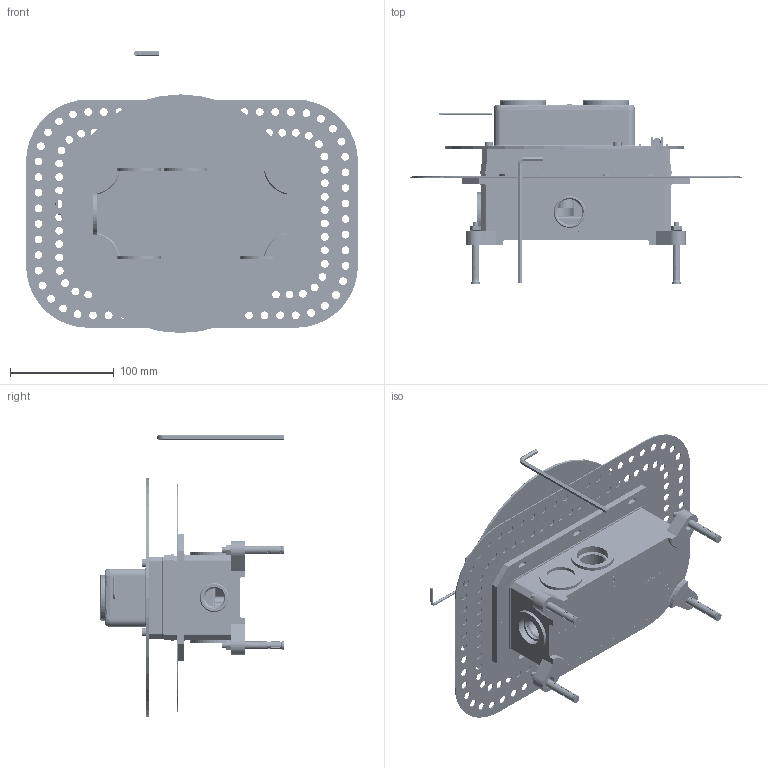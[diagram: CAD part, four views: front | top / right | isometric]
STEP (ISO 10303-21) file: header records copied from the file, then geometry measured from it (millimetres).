
FILE_DESCRIPTION((''),'2;1');
FILE_NAME('180616601_ASM','2022-08-31T09:19:02',('tec17'),(''),'CREO PARAMETRIC BY PTC INC, 2018260','CREO PARAMETRIC BY PTC INC, 2018260','');
FILE_SCHEMA(('CONFIG_CONTROL_DESIGN'));
Products named in the file (50): 206150080715-1; 206150080715-2; 206150080715_ASM; 207042830715; 207030770601; 207030780601; 207030720601; 206150090715; 205011921601; 207011680601; 209011119901; 207011771771; 201016050102; 205011851601; 204061159901; 205020090102; 205011861601; 204040209901; 207040730701; 205074870102-1; 205080191601; 205074870102_ASM; 204090050701; 207030651601; 208001380601; 208000280601; 205012120102; 208000120601; 206094080701; 206207061601; 202061040102; 207010701601; 205011391601; 202060531601; 207042690701; 202011050226; 205010701601; 202060340126; 205011481601; 202030170616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
Assembly tree (79 placements, depth 3):
  180616601_ASM
    206150080715_ASM
      206150080715-1
      206150080715-2  x6
    207042830715  x2
    207030770601
    207030780601
    207030720601  x3
    206150090715
    205011921601  x4
    207011680601
    209011119901
    207011771771  x4
    201016050102
    205011851601  x2
    204061159901
    205020090102
    205011861601
    204040209901
    207040730701
    205074870102_ASM  x2
      205074870102-1
      205080191601
    204090050701  x2
    207030651601  x2
    208001380601  x2
    208000280601  x2
    205012120102  x2
    208000120601  x2
    206094080701
    206207061601  x4
    202061040102
    207010701601
    205011391601
    202060531601
    100516400-B_ASM
      207042690701  x2
      202011050226
      205010701601
      202060340126
      205011481601  x2
      202030170616  x2
      202012050226
      202060520126
      206080601601
      206080021601
      202060041601
      208002150601  x2
    206091890126  x2
    206023941626
Bounding box: 320 x 176.4 x 271.8 mm (x, y, z)
Volume: 832696.3 mm3; surface area: 669156.2 mm2
Topology: 94 solids, 94 shells, 8639 faces, 22045 edges, 13727 vertices
Faces by surface type: plane 4328, cylinder 2102, cone 1233, bspline 357, torus 281, extrusion 249, sphere 89
Entity records: 204328 total; most frequent: CARTESIAN_POINT 64317, ORIENTED_EDGE 30000, DIRECTION 27678, EDGE_CURVE 15000, AXIS2_PLACEMENT_3D 9827, VERTEX_POINT 9529, VECTOR 8024, LINE 7777
